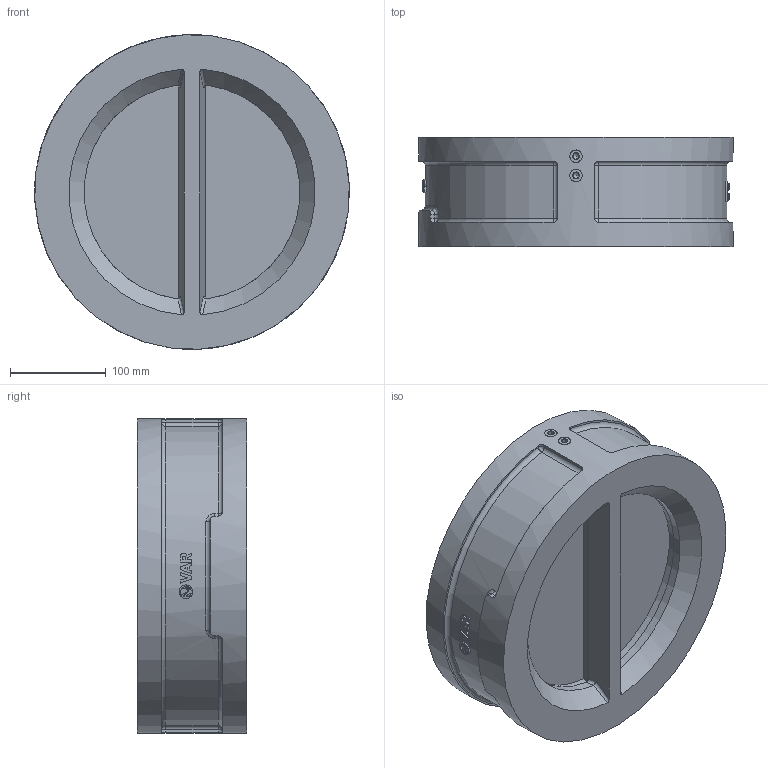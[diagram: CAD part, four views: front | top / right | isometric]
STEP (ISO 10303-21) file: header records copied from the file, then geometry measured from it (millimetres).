
FILE_DESCRIPTION(('STEP AP203'), '1');
FILE_NAME('VAR ZETKA 钺疣蝽 觌囡囗', '', ('UNSPECIFIED'), ('UNSPECIFIED'), 'C3D Converter', 'C3D Toolkit', '');
FILE_SCHEMA(('CONFIG_CONTROL_DESIGN'));
Length unit declared in the file: millimetre
Assembly tree (18 placements, depth 2):
  (unnamed)
    (unnamed)
    (unnamed)  x2
    (unnamed)  x4
    (unnamed)
    (unnamed)  x2
    (unnamed)  x2
    (unnamed)  x2
    (unnamed)  x2
    (unnamed)  x2
Bounding box: 327.71 x 114 x 328 mm (x, y, z)
Volume: 4957682.7 mm3; surface area: 587612.4 mm2
Topology: 33 solids, 33 shells, 576 faces, 1410 edges, 916 vertices
Faces by surface type: plane 253, extrusion 150, cylinder 117, bspline 22, cone 18, sphere 8, torus 8
Full cylindrical faces by diameter (mm): 3 x2, 5.5 x4, 8 x8, 11.52 x16, 12.8 x4, 13 x4, 14.328 x1, 25.02 x6, 259.5 x1, 265 x2, 328 x1
Entity records: 36637 total; most frequent: CARTESIAN_POINT 23335, ORIENTED_EDGE 2202, DIRECTION 1673, EDGE_CURVE 1101, VERTEX_POINT 739, VECTOR 593, EDGE_LOOP 548, AXIS2_PLACEMENT_3D 540
